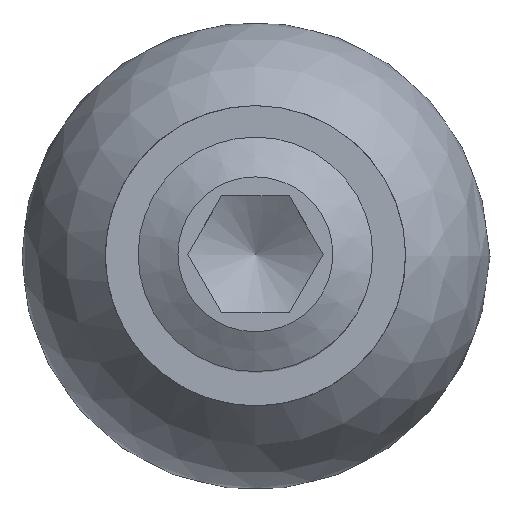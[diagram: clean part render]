
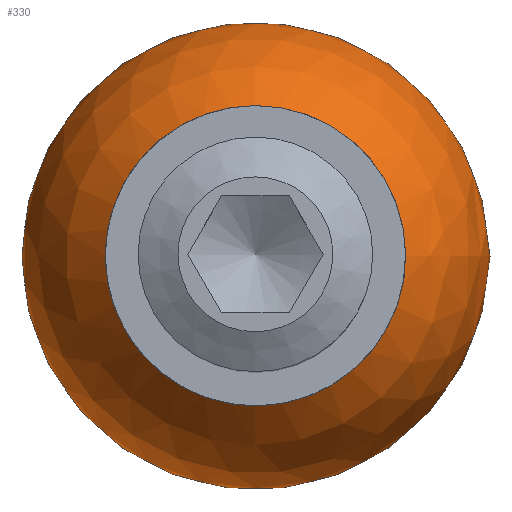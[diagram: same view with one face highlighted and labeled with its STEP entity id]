
A CAD part, top view. The second image highlights one B-rep face of the part: STEP entity #330.
In plain terms, the highlighted spherical face has radius 5 mm.
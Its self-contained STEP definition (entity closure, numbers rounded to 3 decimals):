
#91=SPHERICAL_SURFACE('',#363,5.);
#110=FACE_OUTER_BOUND('',#138,.T.);
#138=EDGE_LOOP('',(#254));
#174=CIRCLE('',#362,3.2);
#192=VERTEX_POINT('',#543);
#216=EDGE_CURVE('',#192,#192,#174,.T.);
#254=ORIENTED_EDGE('',*,*,#216,.T.);
#330=ADVANCED_FACE('',(#110),#91,.T.);
#362=AXIS2_PLACEMENT_3D('',#544,#420,#421);
#363=AXIS2_PLACEMENT_3D('',#545,#422,#423);
#420=DIRECTION('center_axis',(0.,0.,-1.));
#421=DIRECTION('ref_axis',(0.,-1.,0.));
#422=DIRECTION('center_axis',(0.,0.,1.));
#423=DIRECTION('ref_axis',(1.,0.,0.));
#543=CARTESIAN_POINT('',(0.,-3.2,3.842));
#544=CARTESIAN_POINT('Origin',(0.,0.,3.842));
#545=CARTESIAN_POINT('Origin',(0.,0.,0.));
